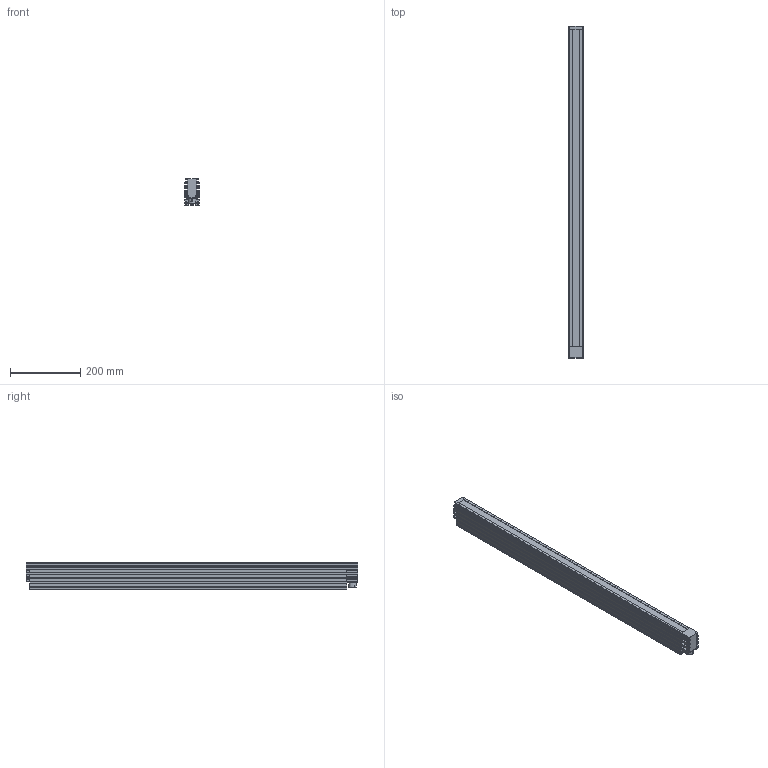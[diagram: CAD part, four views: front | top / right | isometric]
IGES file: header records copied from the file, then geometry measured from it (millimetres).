
Start section: SolidWorks IGES file using analytic representation for surfaces
Global section: file name: C:\Users\88691\Desktop\VST LIGHTING\VST LINEAR LIGHT 線燈\VLN 線光\VLN STEP圖檔用\VLN (L_D_X)-900W _ Drawing _ L1262A (L1277A_L1293A_L1308A)-A00101.IGS; native system: SolidWorks 2020; preprocessor: SolidWorks 2020; author: 88691; date: 240624.140841; units: millimetre
Bounding box: 40 x 942 x 75 mm (x, y, z)
Surface area: 510649.7 mm2 (no closed solid volume)
Topology: 0 solids, 0 shells, 1158 faces, 12124 edges, 12123 vertices
Faces by surface type: bspline 734, revolution 424
